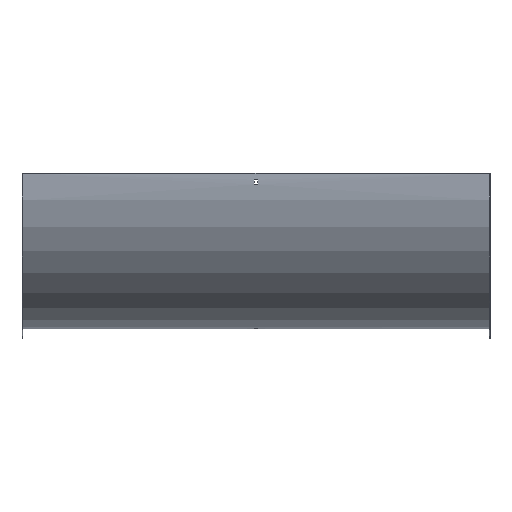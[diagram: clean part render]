
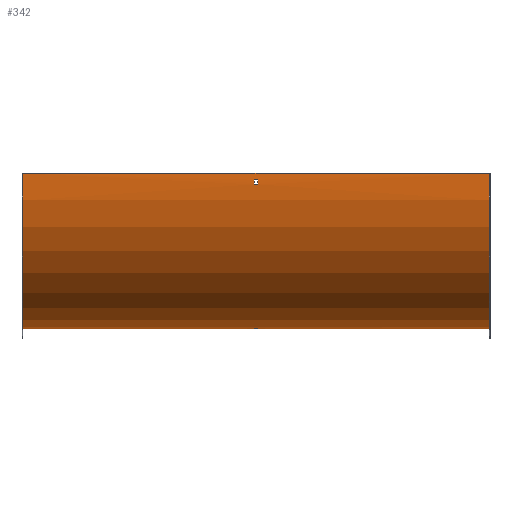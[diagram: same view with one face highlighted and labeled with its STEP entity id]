
A CAD part, front view. The second image highlights one B-rep face of the part: STEP entity #342.
In plain terms, the highlighted cylindrical face has radius 300 mm (diameter 600 mm), a partial arc.
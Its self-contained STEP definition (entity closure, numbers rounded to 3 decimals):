
#7 = CARTESIAN_POINT ( 'NONE',  ( 450., 298.5, 0. ) ) ;
#8 = DIRECTION ( 'NONE',  ( 1., 0., 0. ) ) ;
#14 = CARTESIAN_POINT ( 'NONE',  ( 450., -1.5, 0. ) ) ;
#24 = CIRCLE ( 'NONE', #584, 300. ) ;
#26 = EDGE_LOOP ( 'NONE', ( #210, #121, #159, #215 ) ) ;
#30 = DIRECTION ( 'NONE',  ( -1., 0., 0. ) ) ;
#42 = DIRECTION ( 'NONE',  ( 0., 0., -1. ) ) ;
#45 = LINE ( 'NONE', #236, #209 ) ;
#50 = VECTOR ( 'NONE', #153, 1000. ) ;
#56 = CARTESIAN_POINT ( 'NONE',  ( -3.25, 277.5, -299.264 ) ) ;
#62 = DIRECTION ( 'NONE',  ( 0., 0., 1. ) ) ;
#67 = EDGE_CURVE ( 'NONE', #451, #496, #284, .T. ) ;
#73 = CARTESIAN_POINT ( 'NONE',  ( 3.25, 286.5, -299.76 ) ) ;
#79 = CARTESIAN_POINT ( 'NONE',  ( -3.25, 286.5, -299.76 ) ) ;
#97 = FACE_BOUND ( 'NONE', #307, .T. ) ;
#106 = ORIENTED_EDGE ( 'NONE', *, *, #67, .F. ) ;
#111 = ORIENTED_EDGE ( 'NONE', *, *, #170, .T. ) ;
#121 = ORIENTED_EDGE ( 'NONE', *, *, #505, .F. ) ;
#122 = EDGE_CURVE ( 'NONE', #205, #451, #390, .T. ) ;
#134 = DIRECTION ( 'NONE',  ( -1., 0., 0. ) ) ;
#139 = EDGE_CURVE ( 'NONE', #256, #330, #297, .T. ) ;
#140 = CARTESIAN_POINT ( 'NONE',  ( 451.5, 277.5, -299.264 ) ) ;
#150 = FACE_OUTER_BOUND ( 'NONE', #26, .T. ) ;
#151 = CIRCLE ( 'NONE', #598, 300. ) ;
#153 = DIRECTION ( 'NONE',  ( -1., 0., 0. ) ) ;
#159 = ORIENTED_EDGE ( 'NONE', *, *, #281, .T. ) ;
#164 = DIRECTION ( 'NONE',  ( -1., 0., 0. ) ) ;
#168 = DIRECTION ( 'NONE',  ( 1., 0., 0. ) ) ;
#170 = EDGE_CURVE ( 'NONE', #459, #309, #24, .T. ) ;
#179 = CARTESIAN_POINT ( 'NONE',  ( 3.25, -1.26, -12. ) ) ;
#180 = CARTESIAN_POINT ( 'NONE',  ( -3.25, -1.26, -12. ) ) ;
#190 = DIRECTION ( 'NONE',  ( 1., 0., 0. ) ) ;
#194 = DIRECTION ( 'NONE',  ( 1., 0., 0. ) ) ;
#203 = EDGE_CURVE ( 'NONE', #496, #503, #151, .T. ) ;
#205 = VERTEX_POINT ( 'NONE', #180 ) ;
#209 = VECTOR ( 'NONE', #230, 1000. ) ;
#210 = ORIENTED_EDGE ( 'NONE', *, *, #139, .F. ) ;
#215 = ORIENTED_EDGE ( 'NONE', *, *, #562, .T. ) ;
#218 = CARTESIAN_POINT ( 'NONE',  ( 3.25, -0.764, -21. ) ) ;
#223 = VECTOR ( 'NONE', #168, 1000. ) ;
#230 = DIRECTION ( 'NONE',  ( -1., 0., 0. ) ) ;
#236 = CARTESIAN_POINT ( 'NONE',  ( 450., -1.5, 0. ) ) ;
#237 = EDGE_CURVE ( 'NONE', #309, #590, #472, .T. ) ;
#249 = AXIS2_PLACEMENT_3D ( 'NONE', #355, #488, #536 ) ;
#256 = VERTEX_POINT ( 'NONE', #482 ) ;
#259 = CARTESIAN_POINT ( 'NONE',  ( 451.5, 286.5, -299.76 ) ) ;
#264 = AXIS2_PLACEMENT_3D ( 'NONE', #484, #194, #577 ) ;
#281 = EDGE_CURVE ( 'NONE', #385, #356, #512, .T. ) ;
#284 = LINE ( 'NONE', #602, #394 ) ;
#292 = CARTESIAN_POINT ( 'NONE',  ( -450., -1.5, 0. ) ) ;
#294 = ORIENTED_EDGE ( 'NONE', *, *, #122, .F. ) ;
#297 = CIRCLE ( 'NONE', #502, 300. ) ;
#299 = DIRECTION ( 'NONE',  ( -1., 0., 0. ) ) ;
#301 = CARTESIAN_POINT ( 'NONE',  ( 451.5, -1.26, -12. ) ) ;
#306 = CARTESIAN_POINT ( 'NONE',  ( 450., 298.5, -300. ) ) ;
#307 = EDGE_LOOP ( 'NONE', ( #452, #111, #585, #575 ) ) ;
#309 = VERTEX_POINT ( 'NONE', #56 ) ;
#312 = EDGE_LOOP ( 'NONE', ( #294, #412, #352, #106 ) ) ;
#325 = VECTOR ( 'NONE', #134, 1000. ) ;
#326 = DIRECTION ( 'NONE',  ( -1., 0., 0. ) ) ;
#330 = VERTEX_POINT ( 'NONE', #292 ) ;
#333 = EDGE_CURVE ( 'NONE', #590, #343, #532, .T. ) ;
#339 = DIRECTION ( 'NONE',  ( 0., 0., 1. ) ) ;
#342 = ADVANCED_FACE ( 'NONE', ( #344, #150, #97 ), #480, .T. ) ;
#343 = VERTEX_POINT ( 'NONE', #73 ) ;
#344 = FACE_BOUND ( 'NONE', #312, .T. ) ;
#347 = LINE ( 'NONE', #301, #50 ) ;
#348 = EDGE_CURVE ( 'NONE', #503, #205, #347, .T. ) ;
#352 = ORIENTED_EDGE ( 'NONE', *, *, #203, .F. ) ;
#353 = VECTOR ( 'NONE', #164, 1000. ) ;
#355 = CARTESIAN_POINT ( 'NONE',  ( 451.5, 298.5, 0. ) ) ;
#356 = VERTEX_POINT ( 'NONE', #14 ) ;
#366 = CARTESIAN_POINT ( 'NONE',  ( -3.25, -0.764, -21. ) ) ;
#367 = CARTESIAN_POINT ( 'NONE',  ( 3.25, 298.5, 0. ) ) ;
#372 = EDGE_CURVE ( 'NONE', #343, #459, #498, .T. ) ;
#374 = CARTESIAN_POINT ( 'NONE',  ( -3.25, 298.5, 0. ) ) ;
#378 = AXIS2_PLACEMENT_3D ( 'NONE', #7, #566, #62 ) ;
#385 = VERTEX_POINT ( 'NONE', #306 ) ;
#387 = CARTESIAN_POINT ( 'NONE',  ( -3.25, 298.5, 0. ) ) ;
#390 = CIRCLE ( 'NONE', #405, 300. ) ;
#394 = VECTOR ( 'NONE', #8, 1000. ) ;
#405 = AXIS2_PLACEMENT_3D ( 'NONE', #387, #190, #443 ) ;
#412 = ORIENTED_EDGE ( 'NONE', *, *, #348, .F. ) ;
#418 = DIRECTION ( 'NONE',  ( 0., 1., 0. ) ) ;
#443 = DIRECTION ( 'NONE',  ( 0., 0., 1. ) ) ;
#451 = VERTEX_POINT ( 'NONE', #366 ) ;
#452 = ORIENTED_EDGE ( 'NONE', *, *, #372, .T. ) ;
#459 = VERTEX_POINT ( 'NONE', #79 ) ;
#472 = LINE ( 'NONE', #140, #223 ) ;
#480 = CYLINDRICAL_SURFACE ( 'NONE', #249, 300. ) ;
#482 = CARTESIAN_POINT ( 'NONE',  ( -450., 298.5, -300. ) ) ;
#484 = CARTESIAN_POINT ( 'NONE',  ( 3.25, 298.5, 0. ) ) ;
#488 = DIRECTION ( 'NONE',  ( -1., 0., 0. ) ) ;
#496 = VERTEX_POINT ( 'NONE', #218 ) ;
#498 = LINE ( 'NONE', #259, #353 ) ;
#501 = CARTESIAN_POINT ( 'NONE',  ( 450., 298.5, -300. ) ) ;
#502 = AXIS2_PLACEMENT_3D ( 'NONE', #535, #299, #339 ) ;
#503 = VERTEX_POINT ( 'NONE', #179 ) ;
#505 = EDGE_CURVE ( 'NONE', #385, #256, #604, .T. ) ;
#512 = CIRCLE ( 'NONE', #378, 300. ) ;
#518 = CARTESIAN_POINT ( 'NONE',  ( 3.25, 277.5, -299.264 ) ) ;
#532 = CIRCLE ( 'NONE', #264, 300. ) ;
#535 = CARTESIAN_POINT ( 'NONE',  ( -450., 298.5, 0. ) ) ;
#536 = DIRECTION ( 'NONE',  ( 0., 0., 1. ) ) ;
#562 = EDGE_CURVE ( 'NONE', #356, #330, #45, .T. ) ;
#566 = DIRECTION ( 'NONE',  ( -1., 0., 0. ) ) ;
#575 = ORIENTED_EDGE ( 'NONE', *, *, #333, .T. ) ;
#577 = DIRECTION ( 'NONE',  ( 0., 0., 1. ) ) ;
#584 = AXIS2_PLACEMENT_3D ( 'NONE', #374, #326, #418 ) ;
#585 = ORIENTED_EDGE ( 'NONE', *, *, #237, .T. ) ;
#590 = VERTEX_POINT ( 'NONE', #518 ) ;
#598 = AXIS2_PLACEMENT_3D ( 'NONE', #367, #30, #42 ) ;
#602 = CARTESIAN_POINT ( 'NONE',  ( 451.5, -0.764, -21. ) ) ;
#604 = LINE ( 'NONE', #501, #325 ) ;
